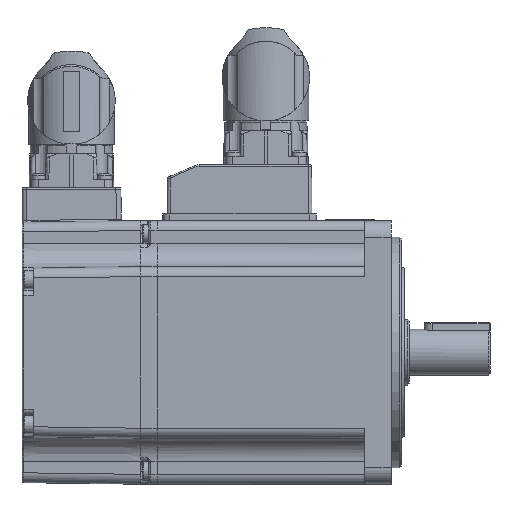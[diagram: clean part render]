
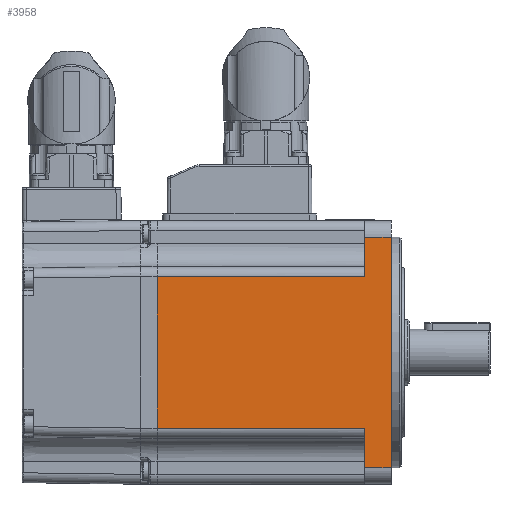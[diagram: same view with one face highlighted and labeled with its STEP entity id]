
A CAD part, left-side view. The second image highlights one B-rep face of the part: STEP entity #3958.
In plain terms, the highlighted planar face has unit normal (-1, 0, 0).
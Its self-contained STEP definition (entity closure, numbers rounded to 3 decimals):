
#3958 = ADVANCED_FACE( '', ( #9865 ), #9866, .T. );
#9865 = FACE_OUTER_BOUND( '', #21407, .T. );
#9866 = PLANE( '', #21408 );
#21407 = EDGE_LOOP( '', ( #39958, #39959, #39960, #39961, #39962, #39963, #39964, #39965, #39966, #39967 ) );
#21408 = AXIS2_PLACEMENT_3D( '', #39968, #39969, #39970 );
#39958 = ORIENTED_EDGE( '', *, *, #59294, .F. );
#39959 = ORIENTED_EDGE( '', *, *, #59295, .T. );
#39960 = ORIENTED_EDGE( '', *, *, #59296, .F. );
#39961 = ORIENTED_EDGE( '', *, *, #57420, .T. );
#39962 = ORIENTED_EDGE( '', *, *, #59297, .F. );
#39963 = ORIENTED_EDGE( '', *, *, #59298, .T. );
#39964 = ORIENTED_EDGE( '', *, *, #59299, .F. );
#39965 = ORIENTED_EDGE( '', *, *, #59300, .T. );
#39966 = ORIENTED_EDGE( '', *, *, #59301, .T. );
#39967 = ORIENTED_EDGE( '', *, *, #59302, .T. );
#39968 = CARTESIAN_POINT( '', ( -40., 214.347, 40. ) );
#39969 = DIRECTION( '', ( -1., 0., 0. ) );
#39970 = DIRECTION( '', ( 0., 0., 1. ) );
#57420 = EDGE_CURVE( '', #67913, #67910, #67914, .T. );
#59294 = EDGE_CURVE( '', #70939, #70940, #70941, .T. );
#59295 = EDGE_CURVE( '', #70939, #70942, #70943, .F. );
#59296 = EDGE_CURVE( '', #67913, #70942, #70944, .T. );
#59297 = EDGE_CURVE( '', #70945, #67910, #70946, .T. );
#59298 = EDGE_CURVE( '', #70945, #70947, #70948, .F. );
#59299 = EDGE_CURVE( '', #70949, #70947, #70950, .T. );
#59300 = EDGE_CURVE( '', #70949, #70951, #70952, .T. );
#59301 = EDGE_CURVE( '', #70951, #70953, #70954, .T. );
#59302 = EDGE_CURVE( '', #70953, #70940, #70955, .T. );
#67910 = VERTEX_POINT( '', #86057 );
#67913 = VERTEX_POINT( '', #86060 );
#67914 = LINE( '', #86061, #86062 );
#70939 = VERTEX_POINT( '', #93365 );
#70940 = VERTEX_POINT( '', #93366 );
#70941 = LINE( '', #93367, #93368 );
#70942 = VERTEX_POINT( '', #93369 );
#70943 = LINE( '', #93370, #93371 );
#70944 = LINE( '', #93372, #93373 );
#70945 = VERTEX_POINT( '', #93374 );
#70946 = LINE( '', #93375, #93376 );
#70947 = VERTEX_POINT( '', #93377 );
#70948 = LINE( '', #93378, #93379 );
#70949 = VERTEX_POINT( '', #93380 );
#70950 = LINE( '', #93381, #93382 );
#70951 = VERTEX_POINT( '', #93383 );
#70952 = LINE( '', #93384, #93385 );
#70953 = VERTEX_POINT( '', #93386 );
#70954 = LINE( '', #93387, #93388 );
#70955 = LINE( '', #93389, #93390 );
#86057 = CARTESIAN_POINT( '', ( -40., 17.311, -35. ) );
#86060 = CARTESIAN_POINT( '', ( -40., 25.311, -35. ) );
#86061 = CARTESIAN_POINT( '', ( -40., 214.347, -35. ) );
#86062 = VECTOR( '', #112204, 1000. );
#93365 = CARTESIAN_POINT( '', ( -40., 88.311, -23. ) );
#93366 = CARTESIAN_POINT( '', ( -40., 88.311, 0. ) );
#93367 = CARTESIAN_POINT( '', ( -40., 88.311, 40. ) );
#93368 = VECTOR( '', #114324, 1000. );
#93369 = CARTESIAN_POINT( '', ( -40., 25.311, -23. ) );
#93370 = CARTESIAN_POINT( '', ( -40., 214.347, -23. ) );
#93371 = VECTOR( '', #114325, 1000. );
#93372 = CARTESIAN_POINT( '', ( -40., 25.311, 40. ) );
#93373 = VECTOR( '', #114326, 1000. );
#93374 = CARTESIAN_POINT( '', ( -40., 17.311, 35. ) );
#93375 = CARTESIAN_POINT( '', ( -40., 17.311, 40. ) );
#93376 = VECTOR( '', #114327, 1000. );
#93377 = CARTESIAN_POINT( '', ( -40., 25.311, 35. ) );
#93378 = CARTESIAN_POINT( '', ( -40., 214.347, 35. ) );
#93379 = VECTOR( '', #114328, 1000. );
#93380 = CARTESIAN_POINT( '', ( -40., 25.311, 23. ) );
#93381 = CARTESIAN_POINT( '', ( -40., 25.311, 40. ) );
#93382 = VECTOR( '', #114329, 1000. );
#93383 = CARTESIAN_POINT( '', ( -40., 88.311, 23. ) );
#93384 = CARTESIAN_POINT( '', ( -40., 214.347, 23. ) );
#93385 = VECTOR( '', #114330, 1000. );
#93386 = CARTESIAN_POINT( '', ( -40., 88.311, 0.001 ) );
#93387 = CARTESIAN_POINT( '', ( -40., 88.311, 40. ) );
#93388 = VECTOR( '', #114331, 1000. );
#93389 = CARTESIAN_POINT( '', ( -40., 88.311, -40. ) );
#93390 = VECTOR( '', #114332, 1000. );
#112204 = DIRECTION( '', ( 0., -1., 0. ) );
#114324 = DIRECTION( '', ( 0., 0., 1. ) );
#114325 = DIRECTION( '', ( 0., 1., 0. ) );
#114326 = DIRECTION( '', ( 0., 0., 1. ) );
#114327 = DIRECTION( '', ( 0., 0., -1. ) );
#114328 = DIRECTION( '', ( 0., -1., 0. ) );
#114329 = DIRECTION( '', ( 0., 0., 1. ) );
#114330 = DIRECTION( '', ( 0., 1., 0. ) );
#114331 = DIRECTION( '', ( 0., 0., -1. ) );
#114332 = DIRECTION( '', ( 0., 0., -1. ) );
